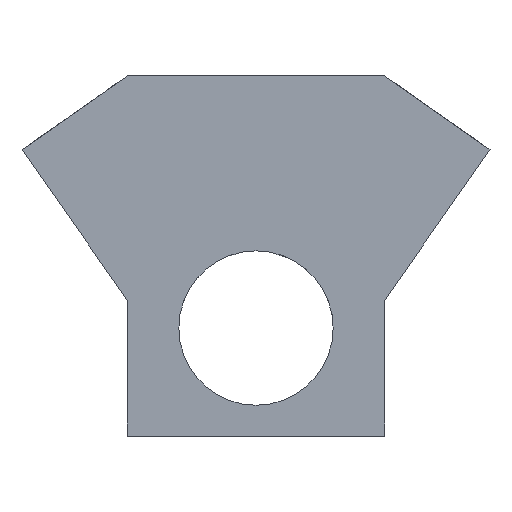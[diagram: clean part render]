
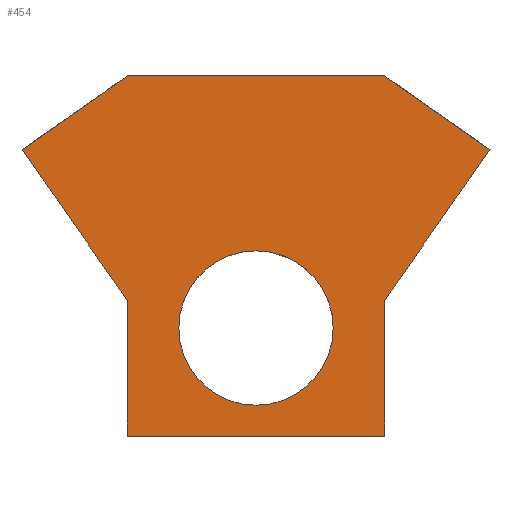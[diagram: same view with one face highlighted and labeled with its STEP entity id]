
A CAD part, front view. The second image highlights one B-rep face of the part: STEP entity #454.
In plain terms, the highlighted planar face has unit normal (0, -1, 0).
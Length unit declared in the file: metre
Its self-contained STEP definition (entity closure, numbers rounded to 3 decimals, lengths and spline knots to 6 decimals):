
#45=CIRCLE('',#490,0.015);
#133=ORIENTED_EDGE('',*,*,#195,.F.);
#134=ORIENTED_EDGE('',*,*,#154,.F.);
#135=ORIENTED_EDGE('',*,*,#157,.F.);
#136=ORIENTED_EDGE('',*,*,#160,.T.);
#137=ORIENTED_EDGE('',*,*,#163,.T.);
#138=ORIENTED_EDGE('',*,*,#167,.T.);
#139=ORIENTED_EDGE('',*,*,#174,.T.);
#140=ORIENTED_EDGE('',*,*,#181,.F.);
#141=ORIENTED_EDGE('',*,*,#186,.F.);
#154=EDGE_CURVE('',#204,#201,#246,.T.);
#157=EDGE_CURVE('',#206,#204,#249,.T.);
#160=EDGE_CURVE('',#206,#208,#252,.T.);
#163=EDGE_CURVE('',#208,#210,#255,.T.);
#167=EDGE_CURVE('',#210,#213,#258,.T.);
#174=EDGE_CURVE('',#213,#219,#261,.T.);
#181=EDGE_CURVE('',#225,#219,#264,.T.);
#186=EDGE_CURVE('',#201,#225,#266,.T.);
#195=EDGE_CURVE('',#237,#237,#45,.T.);
#201=VERTEX_POINT('',#633);
#204=VERTEX_POINT('',#638);
#206=VERTEX_POINT('',#644);
#208=VERTEX_POINT('',#650);
#210=VERTEX_POINT('',#656);
#213=VERTEX_POINT('',#664);
#219=VERTEX_POINT('',#678);
#225=VERTEX_POINT('',#692);
#237=VERTEX_POINT('',#885);
#246=LINE('',#639,#270);
#249=LINE('',#645,#273);
#252=LINE('',#651,#276);
#255=LINE('',#657,#279);
#258=LINE('',#665,#282);
#261=LINE('',#679,#285);
#264=LINE('',#693,#288);
#266=LINE('',#702,#290);
#270=VECTOR('',#521,1.);
#273=VECTOR('',#526,1.);
#276=VECTOR('',#531,1.);
#279=VECTOR('',#536,1.);
#282=VECTOR('',#543,1.);
#285=VECTOR('',#556,1.);
#288=VECTOR('',#569,1.);
#290=VECTOR('',#579,1.);
#349=EDGE_LOOP('',(#133));
#350=EDGE_LOOP('',(#134,#135,#136,#137,#138,#139,#140,#141));
#411=FACE_BOUND('',#349,.T.);
#412=FACE_BOUND('',#350,.T.);
#427=PLANE('',#512);
#454=ADVANCED_FACE('',(#411,#412),#427,.T.);
#490=AXIS2_PLACEMENT_3D('',#884,#582,#583);
#512=AXIS2_PLACEMENT_3D('',#912,#626,#627);
#521=DIRECTION('',(0.,0.,1.));
#526=DIRECTION('',(-1.,0.,0.));
#531=DIRECTION('',(0.,0.,1.));
#536=DIRECTION('',(0.574,0.,0.819));
#543=DIRECTION('',(-0.819,0.,0.574));
#556=DIRECTION('',(-1.,0.,0.));
#569=DIRECTION('',(0.819,0.,0.574));
#579=DIRECTION('',(-0.574,0.,0.819));
#582=DIRECTION('',(0.,-1.,0.));
#583=DIRECTION('',(0.,0.,-1.));
#626=DIRECTION('',(0.,-1.,0.));
#627=DIRECTION('',(1.,0.,0.));
#633=CARTESIAN_POINT('',(-0.025,-0.105,0.026414));
#638=CARTESIAN_POINT('',(-0.025,-0.105,0.));
#639=CARTESIAN_POINT('',(-0.025,-0.105,0.013207));
#644=CARTESIAN_POINT('',(0.025,-0.105,0.));
#645=CARTESIAN_POINT('',(-0.0125,-0.105,0.));
#650=CARTESIAN_POINT('',(0.025,-0.105,0.026414));
#651=CARTESIAN_POINT('',(0.025,-0.105,0.013207));
#656=CARTESIAN_POINT('',(0.045479,-0.105,0.055661));
#657=CARTESIAN_POINT('',(0.035239,-0.105,0.041037));
#664=CARTESIAN_POINT('',(0.025,-0.105,0.07));
#665=CARTESIAN_POINT('',(0.035239,-0.105,0.06283));
#678=CARTESIAN_POINT('',(-0.025,-0.105,0.07));
#679=CARTESIAN_POINT('',(0.018852,-0.105,0.07));
#692=CARTESIAN_POINT('',(-0.045479,-0.105,0.055661));
#693=CARTESIAN_POINT('',(-0.035239,-0.105,0.06283));
#702=CARTESIAN_POINT('',(-0.035239,-0.105,0.041037));
#884=CARTESIAN_POINT('',(0.,-0.105,0.021));
#885=CARTESIAN_POINT('',(0.,-0.105,0.006));
#912=CARTESIAN_POINT('',(0.,-0.105,0.035));
